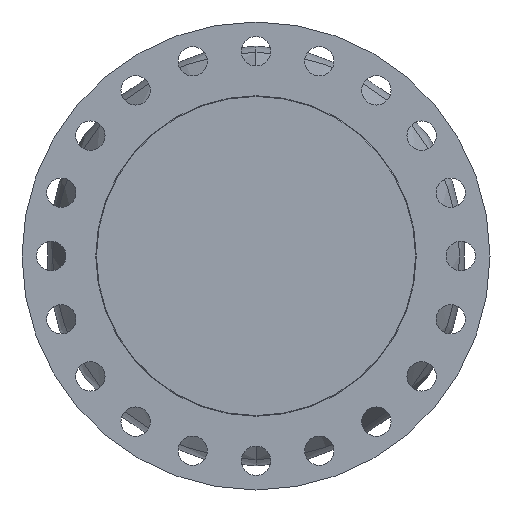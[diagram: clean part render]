
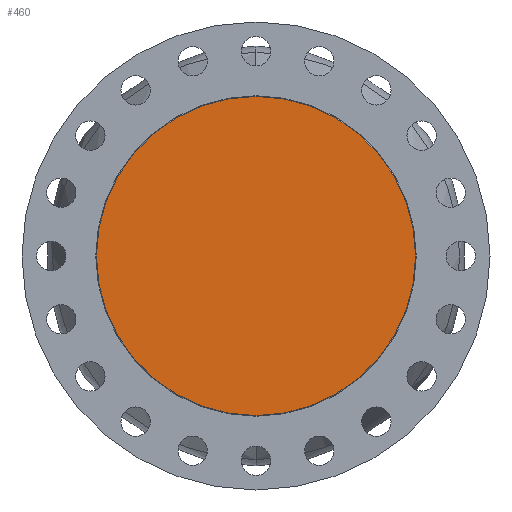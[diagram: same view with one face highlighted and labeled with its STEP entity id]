
A CAD part, left-side view. The second image highlights one B-rep face of the part: STEP entity #460.
In plain terms, the highlighted planar face has unit normal (-1, 0, 0).
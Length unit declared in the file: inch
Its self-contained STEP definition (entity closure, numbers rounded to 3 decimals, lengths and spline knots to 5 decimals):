
#300 = CARTESIAN_POINT ( 'NONE',  ( -21.235, 0., -7.5 ) ) ;
#344 = DIRECTION ( 'NONE',  ( -1., 0., 0. ) ) ;
#460 = ADVANCED_FACE ( 'NONE', ( #5538 ), #4102, .T. ) ;
#821 = DIRECTION ( 'NONE',  ( -1., 0., 0. ) ) ;
#1531 = CIRCLE ( 'NONE', #3410, 7.5 ) ;
#1781 = CARTESIAN_POINT ( 'NONE',  ( -21.235, 7.5, 0. ) ) ;
#2438 = CARTESIAN_POINT ( 'NONE',  ( -21.235, 0., 7.5 ) ) ;
#2612 = DIRECTION ( 'NONE',  ( -1., 0., 0. ) ) ;
#3410 = AXIS2_PLACEMENT_3D ( 'NONE', #5423, #2612, #5890 ) ;
#3636 = CARTESIAN_POINT ( 'NONE',  ( -21.235, 0., 0. ) ) ;
#4016 = AXIS2_PLACEMENT_3D ( 'NONE', #1781, #344, #4173 ) ;
#4047 = ORIENTED_EDGE ( 'NONE', *, *, #4656, .T. ) ;
#4102 = PLANE ( 'NONE',  #4016 ) ;
#4107 = DIRECTION ( 'NONE',  ( 0., 0., 1. ) ) ;
#4173 = DIRECTION ( 'NONE',  ( 0., 0., 1. ) ) ;
#4192 = EDGE_CURVE ( 'NONE', #5062, #6047, #5780, .T. ) ;
#4556 = EDGE_LOOP ( 'NONE', ( #4047, #5317 ) ) ;
#4656 = EDGE_CURVE ( 'NONE', #6047, #5062, #1531, .T. ) ;
#5062 = VERTEX_POINT ( 'NONE', #300 ) ;
#5317 = ORIENTED_EDGE ( 'NONE', *, *, #4192, .T. ) ;
#5423 = CARTESIAN_POINT ( 'NONE',  ( -21.235, 0., 0. ) ) ;
#5538 = FACE_OUTER_BOUND ( 'NONE', #4556, .T. ) ;
#5562 = AXIS2_PLACEMENT_3D ( 'NONE', #3636, #821, #4107 ) ;
#5780 = CIRCLE ( 'NONE', #5562, 7.5 ) ;
#5890 = DIRECTION ( 'NONE',  ( 0., 0., 1. ) ) ;
#6047 = VERTEX_POINT ( 'NONE', #2438 ) ;
